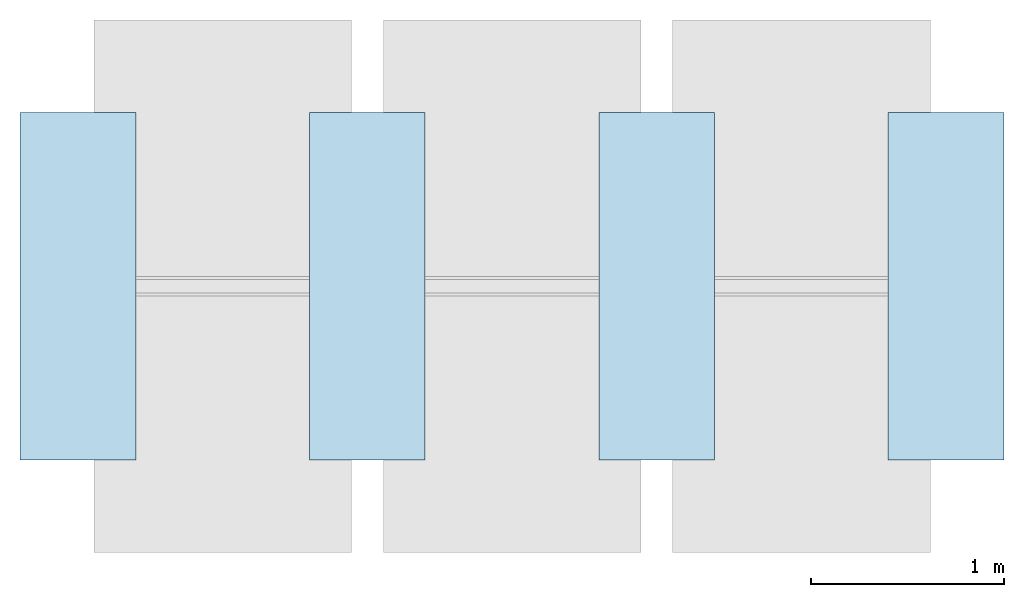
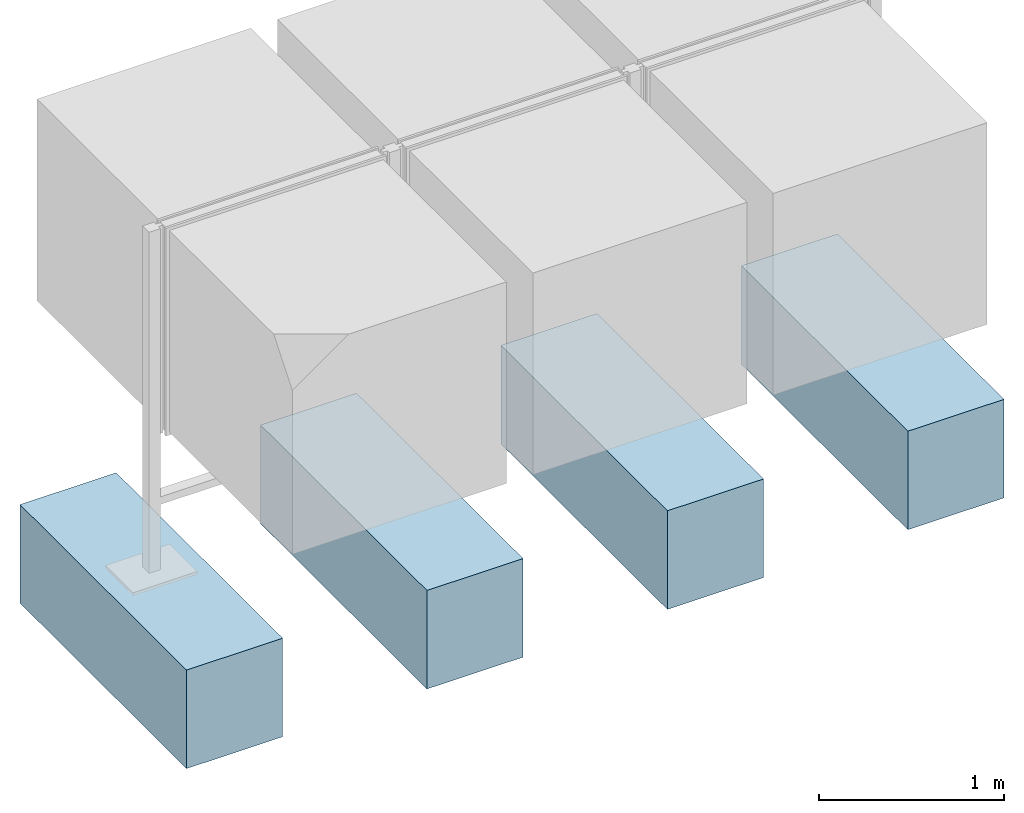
# One storey, incomplete: 4 slabs.
"""IFC4 building model written with IfcOpenShell, lengths in metres."""

from ifc_helpers import new_model, entity, si_unit, converted_unit, direction, frame, frame_2d, origin, origin_2d_with_axis, place, context, subcontext, project, spatial, rectangle, extrude, material, type_object, element, save


model = new_model("IFC4")

# Units and contexts
model_context = context("Model", 3, precision=1e-05, world=origin(), true_north=direction((6.123031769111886e-17, 1.0)))
body_context = subcontext(model_context, "Body", "Model", "MODEL_VIEW")
ifc_project = project(units=[si_unit("LENGTHUNIT", "METRE"), converted_unit("PLANEANGLEUNIT", "DEGREE", entity("IfcPlaneAngleMeasure", 0.017453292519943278), si_unit("PLANEANGLEUNIT", "RADIAN"), dimensions=[0, 0, 0, 0, 0, 0, 0]), si_unit("AREAUNIT", "SQUARE_METRE")], contexts=[model_context])

# Site, building, storey
site_placement = place(None, origin())
site = spatial("IfcSite", under=ifc_project, at=site_placement, Name="Default", CompositionType="ELEMENT")
building_placement = place(site_placement, origin())
building = spatial("IfcBuilding", under=site, at=building_placement, CompositionType="ELEMENT")
storey_placement = place(building_placement, origin())
storey = spatial("IfcBuildingStorey", under=building, at=storey_placement, Name="DB_Bezugshoehe_max_Bahnsteigkante", CompositionType="ELEMENT", Elevation=0.0)

# Slabs
ifc_material = material(Name="DB_Ortbeton", Category="DB_Beton")
slab_type = type_object("IfcSlabType", Name="DB_Vitrine_Fundament:DB_Vitrine_Fundament", PredefinedType="BASESLAB", material=ifc_material)
slab_1_placement = place(storey_placement, origin())
element("IfcSlab", 1, at=slab_1_placement, inside=storey, type_object=slab_type, Name="DB_Vitrine_Fundament:DB_Vitrine_Fundament", ObjectType="DB_Vitrine_Fundament:DB_Vitrine_Fundament", PredefinedType="BASESLAB", context=body_context, shape_type="SweptSolid", body=[
    extrude(rectangle(XDim=1.8, YDim=0.5999999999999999, at=origin_2d_with_axis()), frame((-0.0006257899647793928, 0.0, 0.04999999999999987), z_axis=(0.0, 0.0, 1.0), x_axis=(0.0, 1.0, 0.0)), (0.0, 0.0, 1.0), 0.5999999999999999),
    extrude(rectangle(XDim=0.5999999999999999, YDim=1.7999999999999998, at=origin_2d_with_axis()), frame((-0.0006257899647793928, 0.0, 0.0), z_axis=(0.0, 0.0, 1.0), x_axis=(-1.0, 0.0, 0.0)), (0.0, 0.0, 1.0), 0.04999999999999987),
])
slab_2_placement = place(storey_placement, origin())
element("IfcSlab", 2, at=slab_2_placement, inside=storey, type_object=slab_type, Name="DB_Vitrine_Fundament:DB_Vitrine_Fundament", ObjectType="DB_Vitrine_Fundament:DB_Vitrine_Fundament", PredefinedType="BASESLAB", context=body_context, shape_type="SweptSolid", body=[
    extrude(rectangle(XDim=1.8, YDim=0.5999999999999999, at=frame_2d((0.0, -8.326672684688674e-17), x_axis=(1.0, 0.0))), frame((1.4993742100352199, 0.0, 0.04999999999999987), z_axis=(0.0, 0.0, 1.0), x_axis=(0.0, 1.0, 0.0)), (0.0, 0.0, 1.0), 0.5999999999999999),
    extrude(rectangle(XDim=0.5999999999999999, YDim=1.7999999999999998, at=frame_2d((-1.3877787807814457e-16, 0.0), x_axis=(1.0, 0.0))), frame((1.4993742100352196, 0.0, 0.0), z_axis=(0.0, 0.0, 1.0), x_axis=(-1.0, 0.0, 0.0)), (0.0, 0.0, 1.0), 0.04999999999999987),
])
slab_3_placement = place(storey_placement, origin())
element("IfcSlab", 3, at=slab_3_placement, inside=storey, type_object=slab_type, Name="DB_Vitrine_Fundament:DB_Vitrine_Fundament", ObjectType="DB_Vitrine_Fundament:DB_Vitrine_Fundament", PredefinedType="BASESLAB", context=body_context, shape_type="SweptSolid", body=[
    extrude(rectangle(XDim=1.8, YDim=0.6000000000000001, at=origin_2d_with_axis()), frame((2.999374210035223, 0.0, 0.04999999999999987), z_axis=(0.0, 0.0, 1.0), x_axis=(0.0, 1.0, 0.0)), (0.0, 0.0, 1.0), 0.5999999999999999),
    extrude(rectangle(XDim=0.6000000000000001, YDim=1.7999999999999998, at=origin_2d_with_axis()), frame((2.999374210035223, 0.0, 0.0), z_axis=(0.0, 0.0, 1.0), x_axis=(-1.0, 0.0, 0.0)), (0.0, 0.0, 1.0), 0.04999999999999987),
])
slab_4_placement = place(storey_placement, origin())
element("IfcSlab", 4, at=slab_4_placement, inside=storey, type_object=slab_type, Name="DB_Vitrine_Fundament:DB_Vitrine_Fundament", ObjectType="DB_Vitrine_Fundament:DB_Vitrine_Fundament", PredefinedType="BASESLAB", context=body_context, shape_type="SweptSolid", body=[
    extrude(rectangle(XDim=1.8, YDim=0.6000000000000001, at=origin_2d_with_axis()), frame((4.499374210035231, 0.0, 0.04999999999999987), z_axis=(0.0, 0.0, 1.0), x_axis=(0.0, 1.0, 0.0)), (0.0, 0.0, 1.0), 0.5999999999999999),
    extrude(rectangle(XDim=0.6000000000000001, YDim=1.7999999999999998, at=origin_2d_with_axis()), frame((4.499374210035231, 0.0, 0.0), z_axis=(0.0, 0.0, 1.0), x_axis=(-1.0, 0.0, 0.0)), (0.0, 0.0, 1.0), 0.04999999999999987),
])

save(model, "model.ifc")
